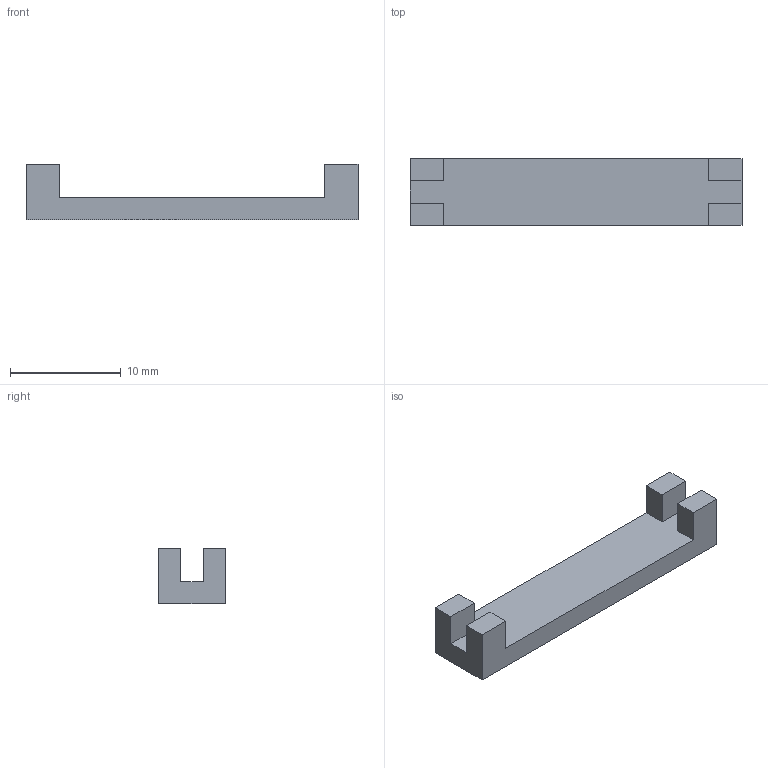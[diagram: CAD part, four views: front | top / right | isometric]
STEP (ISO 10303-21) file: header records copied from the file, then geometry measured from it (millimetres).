
FILE_DESCRIPTION (( 'STEP AP214' ), '1' );
FILE_NAME ('Kalibrierhalter.STEP', '2025-12-28T22:51:21', ( '' ), ( '' ), 'SwSTEP 2.0', 'SolidWorks 2025', '' );
FILE_SCHEMA (( 'AUTOMOTIVE_DESIGN' ));
Length unit declared in the file: millimetre
Products named in the file (1): Kalibrierhalter
Bounding box: 30 x 6 x 5 mm (x, y, z)
Volume: 432 mm3; surface area: 624 mm2
Topology: 1 solids, 1 shells, 18 faces, 48 edges, 32 vertices
Faces by surface type: plane 18
Entity records: 575 total; most frequent: CARTESIAN_POINT 99, ORIENTED_EDGE 96, DIRECTION 86, VECTOR 48, EDGE_CURVE 48, LINE 48, VERTEX_POINT 32, AXIS2_PLACEMENT_3D 19
